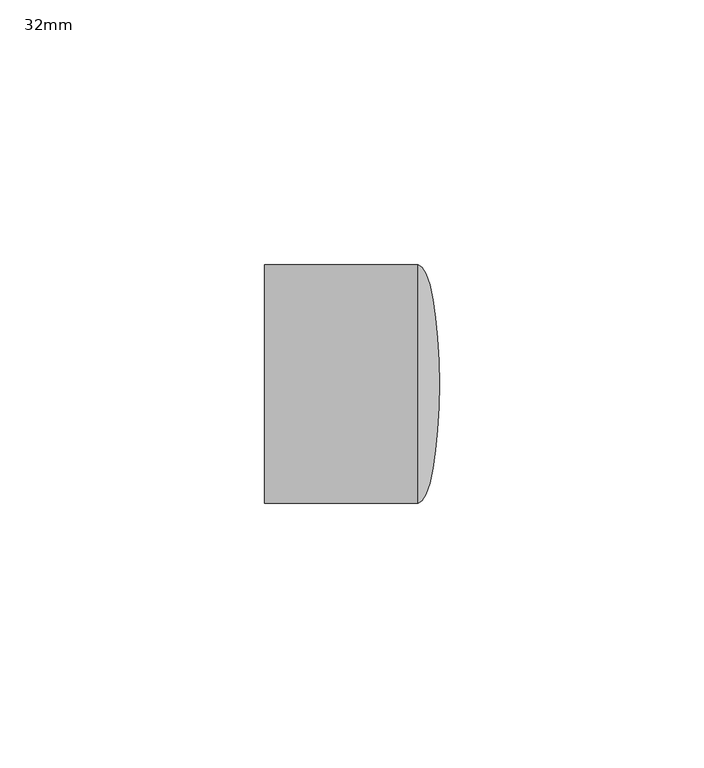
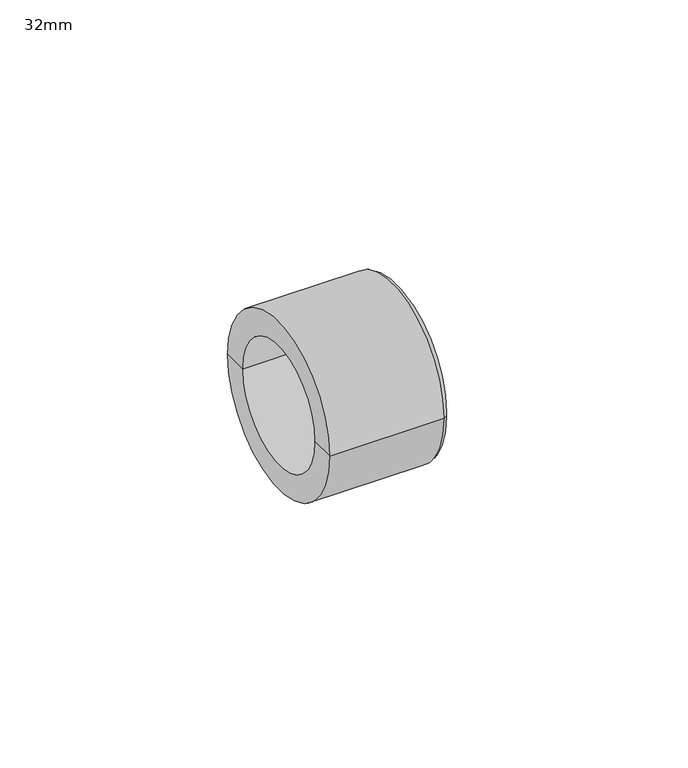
"""IFC4 building model written with IfcOpenShell, lengths in millimetres: pipe fitting geometry, PipeFitting_HTA_CPVC_Caps : 32mm."""

from ifc_helpers import new_model, si_unit, point, frame, origin, place, context, project, spatial, polyline, circle_curve, ellipse_curve, trimmed, source, transform, mapped, element, save
from ifc_brep_helpers import plane_surface, cylinder_surface, revolved_surface, advanced_brep


def pipe_fitting_32mm_af8ace07(model_context):
    return source(origin(), model_context, "Body", "AdvancedBrep", [
        advanced_brep(
        [(12.45, -22.5, 0.0), (12.45, 22.5, 0.0), (16.5, 0.0, 0.0), (-16.5, -22.5, 0.0), (-16.5, 22.5, 0.0), (-16.5, -16.0, 0.0), (-16.5, 16.0, 0.0), (2.0703125, -16.0, 0.0), (2.0703125, 16.0, 0.0)],
        [
            (0, 1, circle_curve(frame((12.45, 0.0, 0.0), z_axis=(1.0, 0.0, 0.0), x_axis=(0.0, 1.0, 0.0)), 22.5)),
            (1, 2, ellipse_curve(frame((12.45, 0.0, 0.0), z_axis=(0.0, 0.0, -1.0), x_axis=(0.0, 1.0, 0.0)), 22.5, 4.05)),
            (2, 0, ellipse_curve(frame((12.45, 0.0, 0.0), z_axis=(0.0, 0.0, -1.0), x_axis=(0.0, -1.0, 0.0)), 22.5, 4.05)),
            (1, 0, circle_curve(frame((12.45, 0.0, 0.0), z_axis=(1.0, 0.0, 0.0), x_axis=(0.0, 1.0, 0.0)), 22.5)),
            (0, 3),
            (3, 4, circle_curve(frame((-16.5, 0.0, 0.0), z_axis=(1.0, 0.0, 0.0), x_axis=(0.0, 1.0, 0.0)), 22.5)),
            (4, 1),
            (4, 3, circle_curve(frame((-16.5, 0.0, 0.0), z_axis=(1.0, 0.0, 0.0), x_axis=(0.0, 1.0, 0.0)), 22.5)),
            (3, 5),
            (5, 6, circle_curve(frame((-16.5, 0.0, 0.0), z_axis=(1.0, 0.0, 0.0), x_axis=(0.0, 1.0, 0.0)), 16.0)),
            (6, 4),
            (6, 5, circle_curve(frame((-16.5, 0.0, 0.0), z_axis=(1.0, 0.0, 0.0), x_axis=(0.0, 1.0, 0.0)), 16.0)),
            (7, 8, circle_curve(frame((2.0703125, 0.0, 0.0), z_axis=(-1.0, 0.0, 0.0), x_axis=(0.0, 1.0, 0.0)), 16.0)),
            (8, 7, circle_curve(frame((2.0703125, 0.0, 0.0), z_axis=(-1.0, 0.0, 0.0), x_axis=(0.0, 1.0, 0.0)), 16.0)),
            (8, 6),
            (5, 7),
        ],
        [
            revolved_surface(trimmed(ellipse_curve(frame((12.45, 0.0, 0.0), z_axis=(0.0, 0.0, 1.0), x_axis=(0.0, 1.0, 0.0)), 22.5, 4.05), [point((16.5, 0.0, 0.0))], [point((12.45, 22.5, 0.0))], True, "CARTESIAN"), (-380.0, 0.0, 0.0), (-1.0, 0.0, 0.0)),
            cylinder_surface(frame((-380.0, 0.0, 0.0), z_axis=(-1.0, 0.0, 0.0), x_axis=(0.0, 1.0, 0.0)), 22.5),
            plane_surface(frame((-16.5, 0.0, 0.0), z_axis=(-1.0, 0.0, 0.0), x_axis=(0.0, 1.0, 0.0))),
            plane_surface(frame((2.0703125, 16.0, 0.0), z_axis=(-1.0, 0.0, 0.0), x_axis=(0.0, 0.0, 1.0))),
            revolved_surface(polyline([(2.0703125, 16.0, 0.0), (-16.5, 16.0, 0.0)]), (-16.5, 0.0, 0.0), (1.0, 0.0, 0.0)),
        ],
        [
            (0, [[1, 2, 3]]),
            (0, [[-2, 4, -3]]),
            (1, [[-1, 5, 6, 7]]),
            (1, [[-4, -7, 8, -5]]),
            (2, [[-6, 9, 10, 11]]),
            (2, [[-8, -11, 12, -9]]),
            (3, [[13, 14]]),
            (4, [[-14, 15, -10, 16]]),
            (4, [[-13, -16, -12, -15]]),
        ],
    ),
    ])


if __name__ == "__main__":
    model = new_model("IFC4")
    model_context = context("Model", 3, world=origin())
    ifc_project = project(units=[si_unit("LENGTHUNIT", "METRE", prefix="MILLI")], contexts=[model_context])
    site = spatial("IfcSite", under=ifc_project)
    building = spatial("IfcBuilding", under=site)
    placement = place(None, origin())
    pipe_fitting_32mm_shape = pipe_fitting_32mm_af8ace07(model_context)
    element("IfcPipeFitting", 1, ObjectType="PipeFitting_HTA_CPVC_Caps : 32mm", at=placement, inside=building, context=model_context, shape_type="MappedRepresentation", body=[
        mapped(pipe_fitting_32mm_shape, transform((0.0, 0.0, 0.0), x_axis=(1.0, 0.0, 0.0), y_axis=(0.0, 1.0, 0.0), z_axis=(0.0, 0.0, 1.0))),
    ])
    save(model, "model.ifc")
